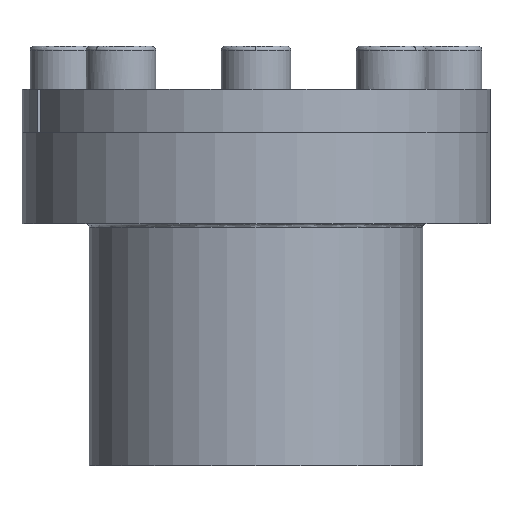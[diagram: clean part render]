
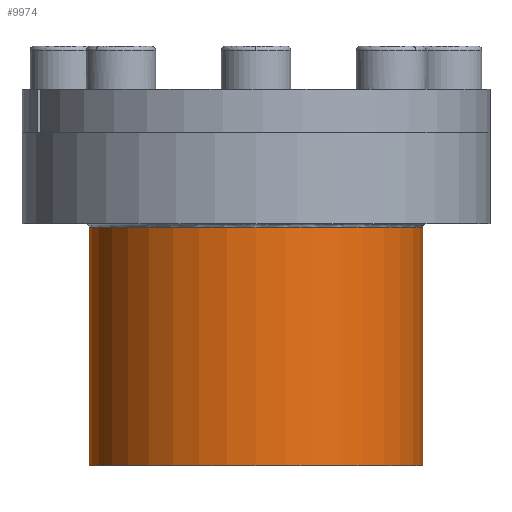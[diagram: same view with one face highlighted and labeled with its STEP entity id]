
A CAD part, front view. The second image highlights one B-rep face of the part: STEP entity #9974.
In plain terms, the highlighted cylindrical face has radius 31 mm (diameter 62 mm), a partial arc.
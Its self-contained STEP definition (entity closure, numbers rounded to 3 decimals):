
#21 = VECTOR ( 'NONE', #11326, 1000. ) ;
#139 = EDGE_CURVE ( 'NONE', #7556, #8022, #14470, .T. ) ;
#2416 = CARTESIAN_POINT ( 'NONE',  ( 31., 0., -11.6 ) ) ;
#2659 = ORIENTED_EDGE ( 'NONE', *, *, #13986, .T. ) ;
#3574 = VECTOR ( 'NONE', #7579, 1000. ) ;
#4459 = FACE_OUTER_BOUND ( 'NONE', #14960, .T. ) ;
#5154 = CARTESIAN_POINT ( 'NONE',  ( 0., 0., -11.6 ) ) ;
#5239 = CIRCLE ( 'NONE', #5482, 31. ) ;
#5240 = DIRECTION ( 'NONE',  ( -1., 0., 0. ) ) ;
#5262 = DIRECTION ( 'NONE',  ( 0., 0., 1. ) ) ;
#5318 = DIRECTION ( 'NONE',  ( 0., 0., -1. ) ) ;
#5482 = AXIS2_PLACEMENT_3D ( 'NONE', #8902, #5262, #14576 ) ;
#5541 = CYLINDRICAL_SURFACE ( 'NONE', #12284, 31. ) ;
#6004 = CIRCLE ( 'NONE', #8918, 31. ) ;
#6678 = ORIENTED_EDGE ( 'NONE', *, *, #139, .F. ) ;
#6700 = LINE ( 'NONE', #11398, #21 ) ;
#6802 = CARTESIAN_POINT ( 'NONE',  ( -31., 0., -56. ) ) ;
#7556 = VERTEX_POINT ( 'NONE', #2416 ) ;
#7579 = DIRECTION ( 'NONE',  ( 0., 0., -1. ) ) ;
#8022 = VERTEX_POINT ( 'NONE', #12944 ) ;
#8092 = ORIENTED_EDGE ( 'NONE', *, *, #13026, .T. ) ;
#8902 = CARTESIAN_POINT ( 'NONE',  ( 0., 0., -56. ) ) ;
#8918 = AXIS2_PLACEMENT_3D ( 'NONE', #5154, #5318, #5240 ) ;
#9045 = CARTESIAN_POINT ( 'NONE',  ( 0., 0., -11. ) ) ;
#9865 = VERTEX_POINT ( 'NONE', #12968 ) ;
#9974 = ADVANCED_FACE ( 'NONE', ( #4459 ), #5541, .T. ) ;
#11322 = DIRECTION ( 'NONE',  ( 0., 0., -1. ) ) ;
#11326 = DIRECTION ( 'NONE',  ( 0., 0., -1. ) ) ;
#11398 = CARTESIAN_POINT ( 'NONE',  ( -31., 0., -11. ) ) ;
#11807 = VERTEX_POINT ( 'NONE', #6802 ) ;
#12284 = AXIS2_PLACEMENT_3D ( 'NONE', #9045, #11322, #12470 ) ;
#12470 = DIRECTION ( 'NONE',  ( -1., 0., 0. ) ) ;
#12944 = CARTESIAN_POINT ( 'NONE',  ( 31., 0., -56. ) ) ;
#12968 = CARTESIAN_POINT ( 'NONE',  ( -31., 0., -11.6 ) ) ;
#13026 = EDGE_CURVE ( 'NONE', #9865, #11807, #6700, .T. ) ;
#13620 = CARTESIAN_POINT ( 'NONE',  ( 31., 0., -11. ) ) ;
#13986 = EDGE_CURVE ( 'NONE', #11807, #8022, #5239, .T. ) ;
#14293 = ORIENTED_EDGE ( 'NONE', *, *, #14930, .T. ) ;
#14470 = LINE ( 'NONE', #13620, #3574 ) ;
#14576 = DIRECTION ( 'NONE',  ( -1., 0., 0. ) ) ;
#14930 = EDGE_CURVE ( 'NONE', #7556, #9865, #6004, .T. ) ;
#14960 = EDGE_LOOP ( 'NONE', ( #6678, #14293, #8092, #2659 ) ) ;
